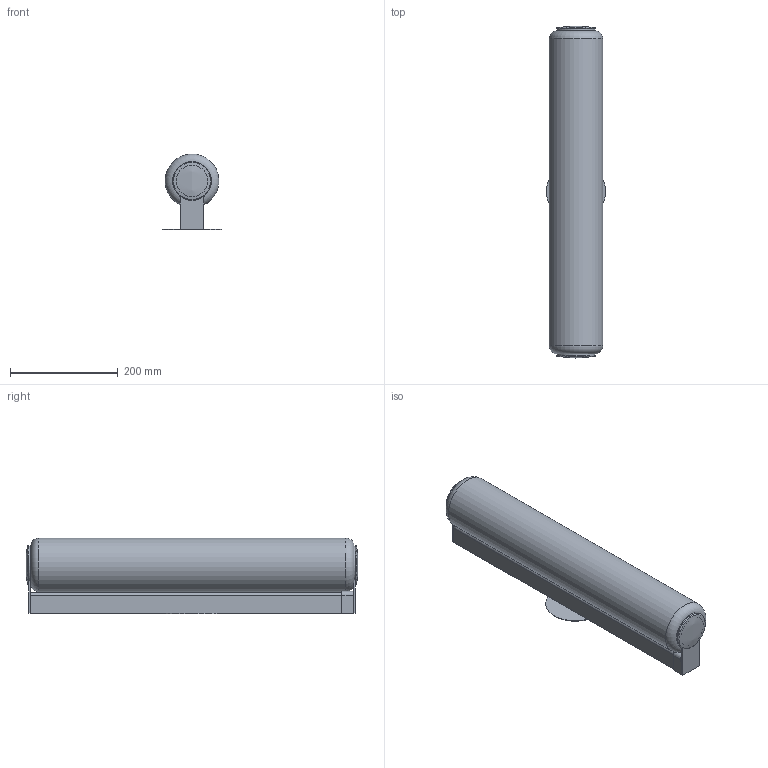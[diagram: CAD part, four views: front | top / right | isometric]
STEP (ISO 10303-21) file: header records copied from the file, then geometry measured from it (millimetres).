
FILE_DESCRIPTION(/* description */ ('STACKING P/PL 60 US'),/* implementation_level */ '2;1');
FILE_NAME(/* name */ '343Z1LD0-0USCA - STACKING P-PL 60 USA - VU MLR.stp',/* time_stamp */ '2026-01-29T11:30:02+01:00',/* author */ ('marco.prandina'),/* organization */ (''),/* preprocessor_version */ 'ST-DEVELOPER v20.1',/* originating_system */ 'Autodesk Inventor 2026',/* authorisation */ '');
FILE_SCHEMA (('AUTOMOTIVE_DESIGN { 1 0 10303 214 3 1 1 }'));
Length unit declared in the file: millimetre
Products named in the file (38): 343Z1LD0-0USCA; 343C667; 343C439; 343C638; GRANO M6X10 ISO 4026; 343C668; 343C635-B; 343C671; 343C665; 343C672; RONDELLA DENTELLATA ESTERNA M4; 343C657; 343C659-A; W027-BIA; X0023-020; 343C670; B006; 00343C397; 00343C404; 00343C398; 00343C407-B; VITE TCB M4X8 UNI7687 ZB; VITE TCB M3X8 UNI7687 ZB; VITE TSP M4X6 ZN; 00343C410; DADO M4 A3 - DIN 934; DADO M3 S2 M.00.06.19 UNI5588 DIN934; RONDELLA DENTELLATA ESTERNA M3 UNI8842A; K002; A031; W042-TRS; Z016-A; Z016-B; Z017-Q; Z016-D; W030-NRO; W030-BIA; 00343V005-C-600
Assembly tree (47 placements, depth 2):
  343Z1LD0-0USCA
    343C667
    343C439
    343C638
    GRANO M6X10 ISO 4026
    343C668
    343C635-B
    343C671
    343C665
    DADO M4 A3 - DIN 934  x4
    RONDELLA DENTELLATA ESTERNA M4  x4
    343C672
    343C657
    343C659-A
    X0023-020  x2
    W027-BIA  x2
    343C670
    B006
    00343C397
    00343C404
    00343C398
    00343C407-B
    VITE TCB M4X8 UNI7687 ZB
    VITE TCB M3X8 UNI7687 ZB  x3
    VITE TSP M4X6 ZN
    00343C410
    DADO M3 S2 M.00.06.19 UNI5588 DIN934
    RONDELLA DENTELLATA ESTERNA M3 UNI8842A
    K002
    A031
    W042-TRS
    Z016-A
    Z016-B
    Z017-Q
    Z016-D
    W030-NRO
    W030-BIA
    00343V005-C-600
Bounding box: 110 x 616.42 x 140.88 mm (x, y, z)
Volume: 1294951.4 mm3; surface area: 1036390.9 mm2
Topology: 50 solids, 90 shells, 4521 faces, 12449 edges, 8229 vertices
Faces by surface type: plane 2672, cylinder 923, bspline 565, cone 318, torus 32, sphere 11
Full cylindrical faces by diameter (mm): 0.88 x2, 1.02 x2, 1.9 x2, 2.459 x8, 2.5 x36, 2.75 x3, 2.9 x2, 3 x10, 3.2 x4, 3.242 x2, 3.4 x3, 3.459 x4, 3.5 x4, 3.571 x1, 3.65 x1, 4 x6, 4.2 x1, 4.3 x4, 4.5 x10, 4.917 x1, 5 x7, 5.2 x1, 5.6 x4, 6 x1, 6.5 x2, 8.4 x1, 9 x2, 10.5 x1, 12 x1, 12.5 x2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
Entity records: 147774 total; most frequent: CARTESIAN_POINT 40060, ORIENTED_EDGE 22966, DIRECTION 18692, EDGE_CURVE 11483, LINE 7638, VECTOR 7638, VERTEX_POINT 7600, AXIS2_PLACEMENT_3D 5527
